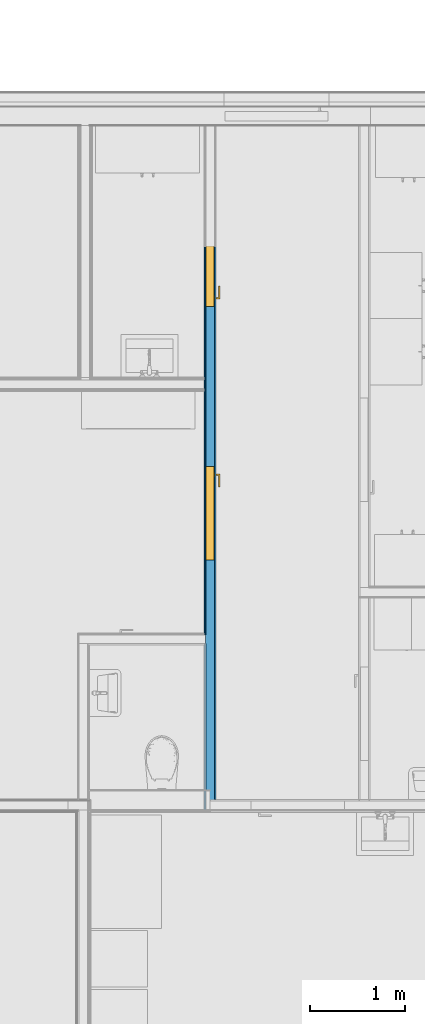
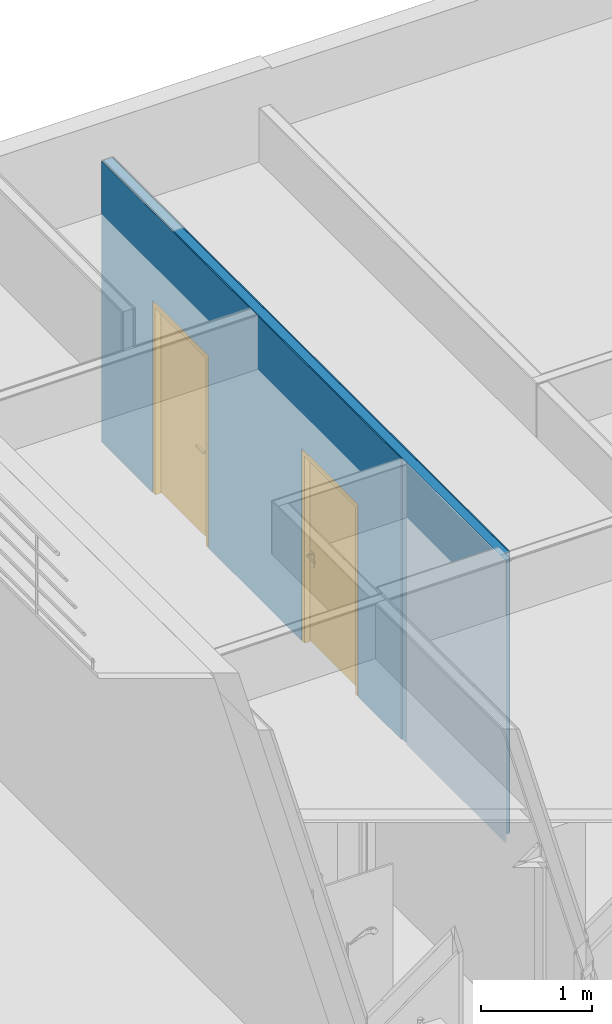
# One storey, part 13 of 67: 3 building element parts, 2 doors, 2 openings, 1 element without a shape of its own, plus 1 element that does not belong to this part.
"""IFC4 building model written with IfcOpenShell, lengths in millimetres."""

from ifc_helpers import new_model, entity, si_unit, converted_unit, direction, frame, origin, place, context, subcontext, project, spatial, indexed_curve, outline, extrude, polygons, source, transform, mapped, material, constituent, constituent_set, type_object, type_shapes, element, fill, aggregate, save


model = new_model("IFC4")

# Units and contexts
model_context = context("Model", 3, precision=0.01, world=origin(), true_north=direction((0.0, 1.0)))
body_context = subcontext(model_context, "Body", "Model", "MODEL_VIEW")
ifc_project = project(units=[si_unit("LENGTHUNIT", "METRE", prefix="MILLI"), si_unit("AREAUNIT", "SQUARE_METRE"), si_unit("VOLUMEUNIT", "CUBIC_METRE"), converted_unit("PLANEANGLEUNIT", "DEGREE", entity("IfcPlaneAngleMeasure", 0.017453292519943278), si_unit("PLANEANGLEUNIT", "RADIAN"), dimensions=[0, 0, 0, 0, 0, 0, 0])], contexts=[model_context])

# Site, building, storey
site_placement = place(None, origin())
site = spatial("IfcSite", under=ifc_project, at=site_placement, Name="Tomtens navn", CompositionType="ELEMENT")
building_placement = place(site_placement, origin())
building = spatial("IfcBuilding", under=site, at=building_placement, Name="Byggets navn", CompositionType="ELEMENT")
storey_placement = place(building_placement, origin())
storey = spatial("IfcBuildingStorey", under=building, at=storey_placement, Name="Level 01", CompositionType="ELEMENT", Elevation=2.1993652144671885e-25)

# Door
ifc_material_1 = material(Name="Rustfritt Stål", Category="Metal")
ifc_constituent_1 = constituent(ifc_material_1, Name="Rustfritt Stål", Category="Metal", fraction=0.0018055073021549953)
ifc_material_2 = material(Name="Hvit", Category="Paint")
ifc_constituent_2 = constituent(ifc_material_2, Name="Hvit", Category="Paint", fraction=0.998194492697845)
ifc_constituent_set_1 = constituent_set(constituents=[ifc_constituent_1, ifc_constituent_2])
ifc_constituent_3 = constituent(ifc_material_1, Name="Rustfritt Stål", Category="Metal", fraction=0.0009035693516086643)
ifc_constituent_4 = constituent(ifc_material_2, Name="Panel", Category="Paint", fraction=0.4995482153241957)
ifc_constituent_5 = constituent(ifc_material_2, Name="Frame/Mullion", Category="Paint", fraction=0.4995482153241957)
ifc_constituent_set_2 = constituent_set(constituents=[ifc_constituent_3, ifc_constituent_4, ifc_constituent_5])
door_type_1 = type_object("IfcDoorType", Name="Enfløyet:ID11 Tredør 10x21M", OperationType="SINGLE_SWING_LEFT", PredefinedType="DOOR", material=ifc_constituent_set_2)
shared_shape_1 = source(origin(), body_context, "Body", "SweptSolid", [
    extrude(outline(indexed_curve([(-33.33333333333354, -50.833333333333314), (24.166666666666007, -50.833333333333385), (24.166666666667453, 86.66666666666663), (9.16666666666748, 86.6666666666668), (9.166666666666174, -35.83333333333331), (-33.33333333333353, -35.83333333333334), (-33.33333333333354, -50.833333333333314)], self_intersect=False)), frame((868.666666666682, 119.9410394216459, 980.5000000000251), z_axis=(0.0, 0.0, 1.0), x_axis=(0.0, 1.0, 0.0)), (0.0, 0.0, 1.0), 14.999999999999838),
    extrude(outline(indexed_curve([(-2.8000000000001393, -25.000000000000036), (2.799999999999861, -25.000000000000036), (2.8000000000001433, 25.000000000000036), (-2.799999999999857, 24.999999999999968), (-2.8000000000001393, -25.000000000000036)], self_intersect=False)), frame((912.0, 83.80000000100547, 850.9862950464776), z_axis=(0.0, 0.0, 1.0), x_axis=(0.0, -1.0, 0.0)), (0.0, 0.0, 1.0), 159.01370495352),
    extrude(outline(indexed_curve([(-50.83333333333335, -33.33333333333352), (-35.83333333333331, -33.33333333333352), (-35.83333333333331, 9.16666666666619), (86.6666666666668, 9.1666666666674), (86.66666666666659, 24.1666666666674), (-50.83333333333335, 24.16666666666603), (-50.83333333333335, -33.33333333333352)], self_intersect=False)), frame((868.6666666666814, 2.0589605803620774, 980.5000000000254), z_axis=(0.0, 0.0, 1.0), x_axis=(-1.0, 0.0, 0.0)), (0.0, 0.0, 1.0), 14.999999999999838),
    extrude(outline(indexed_curve([(-24.999999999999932, -2.799999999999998), (25.00000000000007, -2.799999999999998), (25.0, 2.800000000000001), (-24.999999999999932, 2.800000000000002), (-24.999999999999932, -2.799999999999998)], self_intersect=False)), frame((912.0, 38.200000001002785, 850.9862950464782)), (0.0, 0.0, 1.0), 159.01370495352),
    extrude(outline(indexed_curve([(-456.9999999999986, -20.0), (456.9999999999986, -20.0), (456.9999999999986, 20.0), (-456.9999999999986, 20.0), (-456.9999999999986, -20.0)], self_intersect=False)), frame((505.0, 61.00000000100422, 10.0)), (0.0, 0.0, 1.0), 2042.0),
    extrude(outline(indexed_curve([(456.9999999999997, -1035.4999999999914), (494.99999999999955, -1035.4999999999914), (494.99999999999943, 1054.4999999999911), (-494.99999999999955, 1054.4999999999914), (-494.99999999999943, -1035.4999999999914), (-456.99999999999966, -1035.4999999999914), (-456.99999999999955, 1016.4999999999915), (456.99999999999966, 1016.4999999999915), (456.9999999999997, -1035.4999999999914)], self_intersect=False)), frame((505.0, 81.00000000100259, 1035.4999999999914), z_axis=(0.0, -1.0, 0.0), x_axis=(1.0, 0.0, 0.0)), (0.0, 0.0, 1.0), 99.99999999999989),
])
type_shapes(door_type_1, [shared_shape_1])
wall_placement = place(storey_placement, frame((61925.853528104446, 22861.466456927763, 0.0), z_axis=(0.0, 0.0, 1.0), x_axis=(0.0, -1.0, 0.0)))
opening_2_placement = place(wall_placement, frame((910.0, -60.500000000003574, 0.0)))
door_1_placement = place(opening_2_placement, frame((0.0, 20.0, 0.0)))
door_1 = element("IfcDoor", 1, at=door_1_placement, inside=storey, type_object=door_type_1, material=ifc_constituent_set_1, Name="Enfløyet:ID11 Tredør 10x21M", OverallHeight=2110.000000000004, OverallWidth=1009.9999999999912, PredefinedType="DOOR", context=body_context, shape_type="MappedRepresentation", body=[
    mapped(shared_shape_1, transform((0.0, 0.0, 0.0), scale=1.0)),
])

ifc_constituent_6 = constituent(ifc_material_1, Name="Rustfritt Stål", Category="Metal", fraction=0.0018055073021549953)
ifc_constituent_7 = constituent(ifc_material_2, Name="Hvit", Category="Paint", fraction=0.998194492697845)
ifc_constituent_set_3 = constituent_set(constituents=[ifc_constituent_6, ifc_constituent_7])
ifc_constituent_8 = constituent(ifc_material_1, Name="Rustfritt Stål", Category="Metal", fraction=0.0009035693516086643)
ifc_constituent_9 = constituent(ifc_material_2, Name="Panel", Category="Paint", fraction=0.4995482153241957)
ifc_constituent_10 = constituent(ifc_material_2, Name="Frame/Mullion", Category="Paint", fraction=0.4995482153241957)
ifc_constituent_set_4 = constituent_set(constituents=[ifc_constituent_8, ifc_constituent_9, ifc_constituent_10])
door_type_2 = type_object("IfcDoorType", Name="Enfløyet:ID11 Tredør 10x21M", OperationType="SINGLE_SWING_RIGHT", PredefinedType="DOOR", material=ifc_constituent_set_4)
shared_shape_2 = source(origin(), body_context, "Body", "SweptSolid", [
    extrude(outline(indexed_curve([(-50.833333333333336, -33.33333333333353), (-35.83333333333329, -33.33333333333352), (-35.8333333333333, 9.166666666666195), (86.66666666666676, 9.166666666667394), (86.66666666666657, 24.166666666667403), (-50.83333333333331, 24.16666666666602), (-50.833333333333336, -33.33333333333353)], self_intersect=False)), frame((141.33333333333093, 139.94103942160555, 980.5000000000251)), (0.0, 0.0, 1.0), 14.999999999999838),
    extrude(outline(indexed_curve([(-24.999999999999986, -2.7999999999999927), (25.000000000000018, -2.800000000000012), (24.999999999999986, 2.7999999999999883), (-24.99999999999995, 2.8000000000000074), (-24.999999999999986, -2.7999999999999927)], self_intersect=False)), frame((98.0, 103.80000000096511, 850.9862950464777), z_axis=(0.0, 0.0, 1.0), x_axis=(-1.0, 0.0, 0.0)), (0.0, 0.0, 1.0), 159.01370495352),
    extrude(outline(indexed_curve([(-33.33333333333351, -50.83333333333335), (24.166666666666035, -50.83333333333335), (24.166666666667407, 86.66666666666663), (9.166666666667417, 86.6666666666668), (9.16666666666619, -35.83333333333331), (-33.33333333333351, -35.83333333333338), (-33.33333333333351, -50.83333333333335)], self_intersect=False)), frame((141.33333333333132, 22.05896058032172, 980.5000000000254), z_axis=(0.0, 0.0, 1.0), x_axis=(0.0, -1.0, 0.0)), (0.0, 0.0, 1.0), 14.999999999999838),
    extrude(outline(indexed_curve([(-2.800000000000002, -25.0), (2.799999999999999, -25.0), (2.8000000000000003, 25.00000000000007), (-2.800000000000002, 25.0), (-2.800000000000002, -25.0)], self_intersect=False)), frame((98.0, 58.20000000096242, 850.9862950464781), z_axis=(0.0, 0.0, 1.0), x_axis=(0.0, 1.0, 0.0)), (0.0, 0.0, 1.0), 159.01370495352),
    extrude(outline(indexed_curve([(-20.0, -456.9999999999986), (20.0, -456.9999999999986), (20.0, 456.9999999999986), (-20.0, 456.9999999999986), (-20.0, -456.9999999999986)], self_intersect=False)), frame((505.0, 81.0, 10.0), z_axis=(0.0, 0.0, 1.0), x_axis=(0.0, 1.0, 0.0)), (0.0, 0.0, 1.0), 2042.0),
    extrude(outline(indexed_curve([(-1035.4999999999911, -494.99999999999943), (1054.4999999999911, -494.9999999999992), (1054.4999999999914, 494.9999999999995), (-1035.4999999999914, 494.9999999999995), (-1035.4999999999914, 456.9999999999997), (1016.4999999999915, 456.99999999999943), (1016.4999999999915, -456.99999999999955), (-1035.4999999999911, -456.9999999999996), (-1035.4999999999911, -494.99999999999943)], self_intersect=False)), frame((505.0, 1.0, 1035.4999999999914), z_axis=(0.0, 1.0, 0.0), x_axis=(0.0, 0.0, 1.0)), (0.0, 0.0, 1.0), 99.99999999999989),
])
type_shapes(door_type_2, [shared_shape_2])
opening_1_placement = place(wall_placement, frame((3590.0, -60.500000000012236, 0.0)))
door_2_placement = place(opening_1_placement, origin())
door_2 = element("IfcDoor", 2, at=door_2_placement, inside=storey, type_object=door_type_2, material=ifc_constituent_set_3, Name="Enfløyet:ID11 Tredør 10x21M", OverallHeight=2110.000000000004, OverallWidth=1009.9999999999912, PredefinedType="DOOR", context=body_context, shape_type="MappedRepresentation", body=[
    mapped(shared_shape_2, transform((0.0, 0.0, 0.0), scale=1.0)),
])

# Wall, opening
wall_type = type_object("IfcWallType", Name="Basic Wall:IV02 Gips Stender Gips-120mm", PredefinedType="STANDARD")
wall = element("IfcWall", 3, at=wall_placement, inside=storey, type_object=wall_type, Name="Basic Wall:IV02 Gips Stender Gips-120mm", PredefinedType="NOTDEFINED")
opening_1 = element("IfcOpeningElement", 4, at=opening_1_placement, cuts=wall, Name="Enfløyet:ID11 Tredør 10x21M:1", PredefinedType="OPENING", context=body_context, shape_type="SweptSolid", body=[
    extrude(outline(indexed_curve([(0.0, 1009.9999999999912), (0.0, 0.0), (2110.000000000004, 0.0), (2110.000000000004, 1009.9999999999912), (0.0, 1009.9999999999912)], self_intersect=False)), frame((0.0, 0.0, 0.0), z_axis=(0.0, 1.0, 0.0), x_axis=(0.0, 0.0, 1.0)), (0.0, 0.0, 1.0), 120.99999999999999),
])

fill(opening_1, door_2)

# Opening
opening_2 = element("IfcOpeningElement", 5, at=opening_2_placement, cuts=wall, Name="Enfløyet:ID11 Tredør 10x21M:1", PredefinedType="OPENING", context=body_context, shape_type="SweptSolid", body=[
    extrude(outline(indexed_curve([(0.0, -1.8633834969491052e-27), (2110.000000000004, -1.8633834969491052e-27), (2110.000000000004, 1009.9999999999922), (0.0, 1009.9999999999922), (0.0, -1.8633834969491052e-27)], self_intersect=False)), frame((0.0, 0.0, 0.0), z_axis=(0.0, 1.0, 0.0), x_axis=(0.0, 0.0, 1.0)), (0.0, 0.0, 1.0), 120.99999999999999),
])

fill(opening_2, door_1)

# Building element part
ifc_material_3 = material(Name="Stender", Category="Unassigned")
building_element_part_1_placement = place(wall_placement, frame((7134.500000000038, -47.49999999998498, 0.0)))
building_element_part_1 = element("IfcBuildingElementPart", 6, at=building_element_part_1_placement, material=ifc_material_3, Name="Stender", context=body_context, shape_type="Tessellation", body=[
    polygons([(-6224.499999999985, 94.99999999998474, 200.0000000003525), (-6224.499999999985, 94.99999999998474, 7.331217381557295e-26), (-7134.5000000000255, 94.9999999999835, 7.331217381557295e-26), (-7134.499999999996, 94.9999999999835, 200.0000000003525), (-7136.499999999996, 94.9999999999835, 200.0000000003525), (-7136.499999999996, 94.9999999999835, 3079.9999999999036), (1.8189894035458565e-12, 94.99999999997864, 3079.9999999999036), (1.8189894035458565e-12, 94.99999999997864, 200.0000000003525), (1.8189894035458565e-12, 94.99999999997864, 7.331217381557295e-26), (-2534.5, 94.9999999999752, 7.331217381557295e-26), (-2534.5, 94.9999999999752, 200.0000000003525), (-2534.5, 94.9999999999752, 2110.000000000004), (-3544.4999999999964, 94.99999999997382, 2110.0000000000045), (-3544.4999999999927, 94.99999999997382, 200.0000000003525), (-3544.4999999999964, 94.99999999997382, 7.331217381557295e-26), (-5214.499999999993, 94.9999999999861, 7.331217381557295e-26), (-5214.499999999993, 94.9999999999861, 200.0000000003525), (-5214.499999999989, 94.9999999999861, 2110.000000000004), (-6224.499999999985, 94.99999999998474, 2110.000000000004), (1.8189894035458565e-12, -1.4085721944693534e-11, 7.331217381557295e-26), (-2534.5, -1.752829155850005e-11, 7.331217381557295e-26), (-5214.499999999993, -1.3892533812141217e-11, 7.331217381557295e-26), (-5214.499999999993, -1.3892533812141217e-11, 200.00000000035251), (-5214.499999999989, -1.389253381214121e-11, 2110.000000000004), (-6224.499999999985, -1.5264400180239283e-11, 2110.000000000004), (-6224.499999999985, -1.5264400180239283e-11, 200.00000000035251), (-6224.499999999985, -1.5264400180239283e-11, 7.331217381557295e-26), (-7134.5000000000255, -1.6500438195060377e-11, 7.331217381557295e-26), (-7134.499999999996, -1.6500438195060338e-11, 200.0000000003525), (-3544.4999999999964, -1.8900157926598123e-11, 7.331217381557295e-26), (-2534.5, -1.752829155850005e-11, 200.00000000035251), (-2534.5, -1.0252333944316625e-11, 2110.000000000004), (-3544.4999999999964, -1.8900157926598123e-11, 2110.000000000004), (-3544.4999999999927, -1.8900157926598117e-11, 200.00000000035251), (1.8189894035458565e-12, -1.4085721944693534e-11, 200.0000000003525), (1.8189894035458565e-12, -1.4085721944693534e-11, 3079.9999999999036), (-7136.499999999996, -1.650315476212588e-11, 3079.9999999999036), (-7136.499999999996, -1.650315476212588e-11, 200.0000000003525)], [[[1, 2, 3, 4, 5, 6, 7, 8, 9, 10, 11, 12, 13, 14, 15, 16, 17, 18, 19]], [[10, 9, 20, 21]], [[17, 16, 22, 23, 24, 18]], [[2, 1, 19, 25, 26, 27]], [[3, 2, 27, 28]], [[4, 3, 28, 29]], [[16, 15, 30, 22]], [[11, 10, 21, 31, 32, 12]], [[15, 14, 13, 33, 34, 30]], [[28, 27, 26, 25, 24, 23, 22, 30, 34, 33, 32, 31, 21, 20, 35, 36, 37, 38, 29]], [[20, 9, 8, 7, 36, 35]], [[38, 5, 4, 29]], [[19, 18, 24, 25]], [[7, 6, 37, 36]], [[13, 12, 32, 33]], [[5, 38, 37, 6]]], closed=True),
])

ifc_material_4 = material(Name="Gipsplater", Category="NOR ^ Gips")
building_element_part_2_placement = place(wall_placement, frame((7121.500000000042, 47.50000000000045, 0.0)))
building_element_part_2 = element("IfcBuildingElementPart", 7, at=building_element_part_2_placement, material=ifc_material_4, Name="Gipsplater", context=body_context, shape_type="Tessellation", body=[
    polygons([(-3531.499999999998, 13.000000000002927, 2.1993652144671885e-25), (-3531.499999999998, -1.1624200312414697e-11, 7.331217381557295e-26), (-5201.4999999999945, 6.593814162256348e-13, 7.331217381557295e-26), (-5201.499999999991, 13.000000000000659, 2.1993652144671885e-25), (-5201.4999999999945, 13.000000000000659, 200.0000000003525), (-5201.4999999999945, 6.593814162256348e-13, 200.00000000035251), (-5201.499999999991, 6.593814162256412e-13, 2110.000000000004), (-5201.499999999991, 13.000000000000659, 2110.0000000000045), (-6211.499999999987, -7.124849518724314e-13, 7.331217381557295e-26), (-6211.499999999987, 12.999999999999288, 2.1993652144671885e-25), (-6211.499999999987, 12.999999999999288, 200.00000000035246), (-6211.499999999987, 12.999999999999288, 2110.000000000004), (-6211.499999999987, -7.124849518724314e-13, 2110.000000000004), (-6211.499999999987, -7.124849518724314e-13, 200.00000000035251), (-7121.500000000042, 12.999999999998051, 2.1993652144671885e-25), (-7121.500000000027, -1.948522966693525e-12, 7.331217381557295e-26), (-7121.499999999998, -1.948522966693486e-12, 200.0000000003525), (-7121.499999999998, -1.948522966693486e-12, 3079.9999999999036), (-7121.499999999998, 12.999999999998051, 3079.9999999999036), (-7121.500000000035, 12.999999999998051, 200.00000000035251), (1.8189894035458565e-12, 13.000000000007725, 2.1993652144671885e-25), (1.8189894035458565e-12, 13.00000000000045, 200.00000000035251), (1.8189894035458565e-12, 13.000000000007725, 3079.9999999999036), (1.8189894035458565e-12, -6.8274220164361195e-12, 3079.9999999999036), (0.0, -6.827422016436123e-12, 200.0000000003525), (1.8189894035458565e-12, -6.8274220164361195e-12, 7.331217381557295e-26), (-2521.500000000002, -1.0252333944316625e-11, 7.331217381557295e-26), (-2521.500000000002, 13.000000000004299, 2.1993652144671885e-25), (-2521.500000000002, 12.999999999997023, 200.0000000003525), (-2521.500000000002, -1.0252333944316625e-11, 200.00000000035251), (-2521.500000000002, 4.299581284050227e-12, 2110.000000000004), (-2521.500000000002, 13.000000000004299, 2110.000000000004), (-3531.4999999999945, 13.000000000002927, 200.00000000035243), (-3531.499999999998, 13.000000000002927, 2110.000000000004), (-3531.499999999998, -1.1624200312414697e-11, 2110.0000000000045), (-3531.4999999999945, -1.162420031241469e-11, 200.0000000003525)], [[[1, 2, 3, 4]], [[5, 4, 3, 6, 7, 8]], [[9, 10, 11, 12, 13, 14]], [[15, 10, 9, 16]], [[15, 16, 17, 18, 19, 20]], [[21, 22, 23, 24, 25, 26]], [[27, 28, 21, 26]], [[29, 28, 27, 30, 31, 32]], [[1, 33, 34, 35, 36, 2]], [[16, 9, 14, 13, 7, 6, 3, 2, 36, 35, 31, 30, 27, 26, 25, 24, 18, 17]], [[12, 8, 7, 13]], [[23, 19, 18, 24]], [[34, 32, 31, 35]], [[10, 15, 20, 19, 23, 22, 21, 28, 29, 32, 34, 33, 1, 4, 5, 8, 12, 11]]], closed=True),
])

building_element_part_3_placement = place(wall_placement, origin())
building_element_part_3 = element("IfcBuildingElementPart", 8, at=building_element_part_3_placement, material=ifc_material_4, Name="Gipsplater", context=body_context, shape_type="SweptSolid", body=[
    extrude(outline(indexed_curve([(-885.499999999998, -6.499999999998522), (885.499999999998, -6.499999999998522), (885.499999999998, 6.499999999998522), (-885.499999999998, 6.500000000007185), (-885.499999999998, -6.499999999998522)], self_intersect=False)), frame((6359.0, -54.0, 0.0)), (0.0, 0.0, 1.0), 3079.999999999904),
])

building_element_part_4_placement = place(wall_placement, frame((5378.500000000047, -60.500000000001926, 0.0)))
building_element_part_4 = element("IfcBuildingElementPart", 9, at=building_element_part_4_placement, material=ifc_material_4, Name="Gipsplater", context=body_context, shape_type="Tessellation", body=[
    polygons([(-3458.5, 13.000000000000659, 7.331217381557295e-26), (-1788.5000000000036, 12.999999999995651, 7.331217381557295e-26), (-1788.5000000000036, -4.348242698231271e-12, 2.1993652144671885e-25), (-3458.4999999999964, 1.5211296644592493e-11, 2.1993652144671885e-25), (-3458.5, 13.000000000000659, 200.0000000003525), (-3458.5, 7.93533903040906e-12, 200.00000000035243), (-3458.4999999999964, 1.5211296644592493e-11, 2110.000000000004), (-3458.4999999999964, 13.000000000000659, 2110.000000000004), (-4468.499999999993, 12.999999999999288, 7.331217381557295e-26), (-4468.499999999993, 12.999999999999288, 200.0000000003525), (-4468.499999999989, 12.999999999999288, 2110.000000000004), (-4468.499999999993, 1.383943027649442e-11, 2110.000000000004), (-4468.499999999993, 6.5634726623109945e-12, 200.0000000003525), (-4468.499999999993, 1.383943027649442e-11, 2.1993652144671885e-25), (-5378.500000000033, 12.999999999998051, 7.331217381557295e-26), (-5378.500000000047, 1.2603392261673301e-11, 2.1993652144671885e-25), (-5378.500000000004, 12.999999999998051, 200.0000000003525), (-5378.50000000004, 5.327434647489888e-12, 200.00000000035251), (-5378.500000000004, 1.2603392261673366e-11, 3079.9999999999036), (-5378.500000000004, 12.999999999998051, 3079.9999999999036), (-13.0, -1.936610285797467e-12, 2.1993652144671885e-25), (-778.5000000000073, -2.9763763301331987e-12, 2.1993652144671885e-25), (-778.5000000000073, 12.999999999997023, 7.331217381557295e-26), (0.0, 13.000000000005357, 7.331217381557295e-26), (0.0, -1.918952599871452e-12, 1.466243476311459e-25), (-778.5000000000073, 12.999999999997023, 200.0000000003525), (-778.5000000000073, -2.9763763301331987e-12, 200.00000000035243), (-778.5000000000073, -2.9763763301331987e-12, 2110.000000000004), (-778.5000000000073, 13.000000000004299, 2110.000000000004), (-1788.5, 12.999999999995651, 200.0000000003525), (-1788.5000000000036, 12.999999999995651, 2110.000000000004), (-1788.5000000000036, 1.7479630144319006e-11, 2110.000000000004), (-1788.5, 1.0203672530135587e-11, 200.0000000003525), (0.0, 12.999999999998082, 200.0000000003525), (0.0, 12.999999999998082, 3079.9999999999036), (0.0, -1.918952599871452e-12, 3079.9999999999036), (0.0, -1.918952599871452e-12, 200.0000000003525), (-13.0, -1.936610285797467e-12, 3079.999999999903)], [[[1, 2, 3, 4]], [[5, 1, 4, 6, 7, 8]], [[9, 10, 11, 12, 13, 14]], [[15, 9, 14, 16]], [[17, 15, 16, 18, 19, 20]], [[21, 22, 23, 24, 25]], [[26, 23, 22, 27, 28, 29]], [[2, 30, 31, 32, 33, 3]], [[24, 34, 35, 36, 37, 25]], [[11, 8, 7, 12]], [[31, 29, 28, 32]], [[35, 20, 19, 38, 36]], [[27, 22, 21, 25, 37, 36, 38, 19, 18, 16, 14, 13, 12, 7, 6, 4, 3, 33, 32, 28]], [[23, 26, 29, 31, 30, 2, 1, 5, 8, 11, 10, 9, 15, 17, 20, 35, 34, 24]]], closed=True),
])

aggregate(wall, [building_element_part_1, building_element_part_2, building_element_part_3, building_element_part_4])

save(model, "model.ifc")
